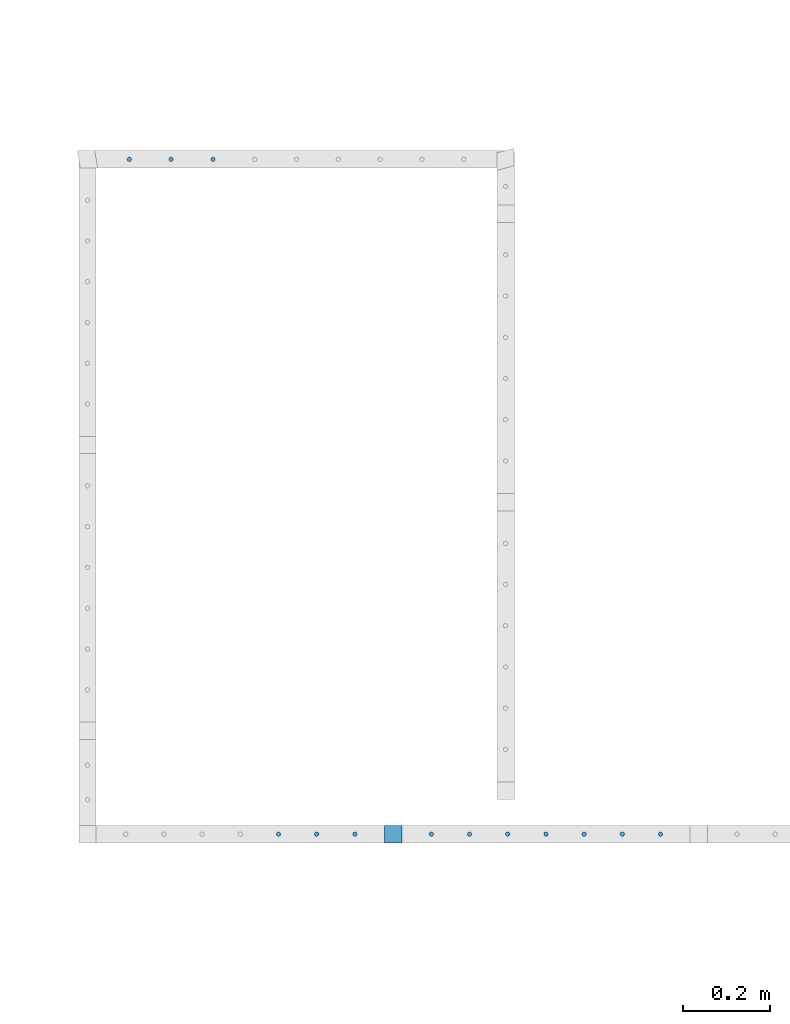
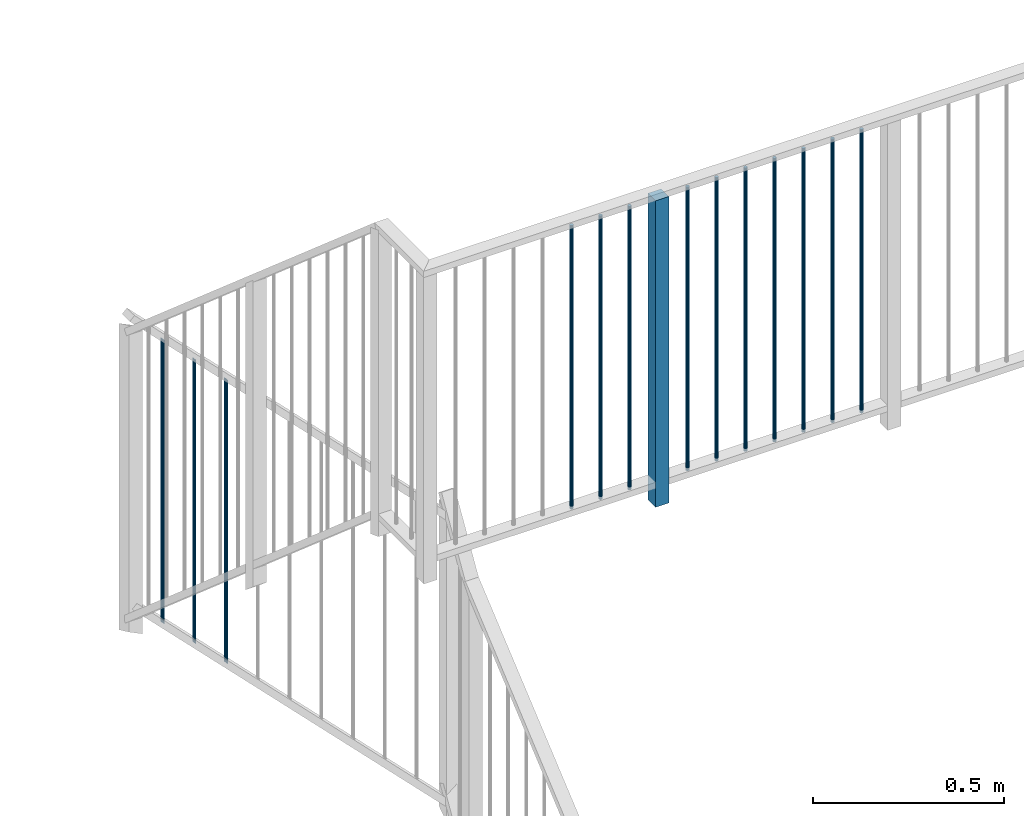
# One storey, part 8 of 135: 14 members, 1 element without a shape of its own.
"""IFC2X3 building model written with IfcOpenShell, lengths in millimetres."""

from ifc_helpers import new_model, entity, si_unit, converted_unit, derived_unit, money_unit, direction, frame, origin_with_axes, place, context, subcontext, project, spatial, faceted_brep, source, transform, mapped, material, type_object, type_shapes, element, aggregate, save


model = new_model("IFC2X3")

# Units and contexts
model_context = context("Model", 3, precision=0.01, world=origin_with_axes(), true_north=direction((0.0, 1.0)))
body_context = subcontext(model_context, "Body", "Model", "MODEL_VIEW")
ifc_project = project(units=[si_unit("LENGTHUNIT", "METRE", prefix="MILLI"), si_unit("AREAUNIT", "SQUARE_METRE"), si_unit("VOLUMEUNIT", "CUBIC_METRE"), converted_unit("PLANEANGLEUNIT", "DEGREE", entity("IfcPlaneAngleMeasure", 0.0174532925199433), si_unit("PLANEANGLEUNIT", "RADIAN"), dimensions=[0, 0, 0, 0, 0, 0, 0]), money_unit("EUR"), converted_unit("TIMEUNIT", "Year", entity("IfcTimeMeasure", 31557600.0), si_unit("TIMEUNIT", "SECOND"), dimensions=[0, 0, 1, 0, 0, 0, 0]), si_unit("MASSUNIT", "GRAM", prefix="KILO"), si_unit("THERMODYNAMICTEMPERATUREUNIT", "DEGREE_CELSIUS"), si_unit("LUMINOUSINTENSITYUNIT", "LUMEN"), si_unit("ENERGYUNIT", "JOULE", prefix="MEGA"), derived_unit("THERMALCONDUCTANCEUNIT", [(si_unit("POWERUNIT", "WATT"), 1), (si_unit("LENGTHUNIT", "METRE"), -1), (si_unit("THERMODYNAMICTEMPERATUREUNIT", "KELVIN"), -1)]), derived_unit("SPECIFICHEATCAPACITYUNIT", [(si_unit("ENERGYUNIT", "JOULE"), 1), (si_unit("MASSUNIT", "GRAM", prefix="KILO"), -1), (si_unit("THERMODYNAMICTEMPERATUREUNIT", "KELVIN"), -1)]), derived_unit("MASSDENSITYUNIT", [(si_unit("MASSUNIT", "GRAM", prefix="KILO"), 1), (si_unit("VOLUMEUNIT", "CUBIC_METRE"), -1)])], contexts=[model_context])

# Site, building, storey
site_placement = place(None, origin_with_axes())
site = spatial("IfcSite", under=ifc_project, at=site_placement, Name="Site", CompositionType="ELEMENT")
building_placement = place(site_placement, origin_with_axes())
building = spatial("IfcBuilding", under=site, at=building_placement, Name="Naam gebouw", CompositionType="ELEMENT")
storey_placement = place(building_placement, origin_with_axes())
storey = spatial("IfcBuildingStorey", under=building, at=storey_placement, Name="Begane grond N", CompositionType="ELEMENT", Elevation=0.0)

# Railing, members
railing_type = type_object("IfcRailingType", Name="Railing Type", PredefinedType="NOTDEFINED")
railing_placement = place(storey_placement, frame((799.9999999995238, 21575.82979156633, 4340.731848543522), z_axis=(0.0, 0.0, 1.0), x_axis=(1.0, 0.0, 0.0)))
railing = element("IfcRailing", 1, at=railing_placement, inside=storey, type_object=railing_type, Name="_Reling-x", PredefinedType="NOTDEFINED")
ifc_material = material(Name="Metaal - Staal C")
member_type_1 = type_object("IfcMemberType", Name="IfcMember", PredefinedType="MEMBER")
shared_shape_1 = source(origin_with_axes(), body_context, "Body", "Brep", [
    faceted_brep([(0.0, -5.0, 0.0), (0.8682408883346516, -4.92403876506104, 0.0), (0.868240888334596, -4.92403876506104, 907.5000000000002), (0.0, -5.0, 907.5000000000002), (-0.868240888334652, -4.92403876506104, 0.0), (-1.710100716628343, -4.698463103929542, 0.0), (-2.500000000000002, -4.330127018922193, 0.0), (-3.213938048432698, -3.830222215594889, 0.0), (-3.830222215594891, -3.213938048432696, 0.0), (-4.330127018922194, -2.5, 0.0), (-4.698463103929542, -1.710100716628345, 0.0), (-4.924038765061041, -0.86824088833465, 0.0), (-5.0, 0.0, 0.0), (-4.92403876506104, 0.8682408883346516, 0.0), (-4.698463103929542, 1.710100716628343, 0.0), (-4.330127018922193, 2.500000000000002, 0.0), (-3.83022221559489, 3.213938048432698, 0.0), (-3.213938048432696, 3.83022221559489, 0.0), (-2.5, 4.330127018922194, 0.0), (-1.710100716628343, 4.698463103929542, 0.0), (-0.8682408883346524, 4.92403876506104, 0.0), (0.0, 5.0, 0.0), (0.8682408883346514, 4.92403876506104, 0.0), (1.710100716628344, 4.698463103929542, 0.0), (2.5, 4.330127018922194, 0.0), (3.213938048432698, 3.83022221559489, 0.0), (3.83022221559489, 3.213938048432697, 0.0), (4.330127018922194, 2.499999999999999, 0.0), (4.698463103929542, 1.710100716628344, 0.0), (4.92403876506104, 0.8682408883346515, 0.0), (5.0, 0.0, 0.0), (4.92403876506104, -0.8682408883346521, 0.0), (4.698463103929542, -1.710100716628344, 0.0), (4.330127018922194, -2.5, 0.0), (3.83022221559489, -3.213938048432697, 0.0), (3.213938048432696, -3.83022221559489, 0.0), (2.5, -4.330127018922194, 0.0), (1.710100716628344, -4.698463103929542, 0.0), (1.710100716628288, -4.698463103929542, 907.5000000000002), (2.499999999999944, -4.330127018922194, 907.5000000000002), (3.213938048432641, -3.83022221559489, 907.5000000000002), (3.830222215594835, -3.213938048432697, 907.5000000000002), (4.330127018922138, -2.5, 907.5000000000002), (4.698463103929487, -1.710100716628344, 907.5000000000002), (4.924038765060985, -0.8682408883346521, 907.5000000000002), (4.999999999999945, 0.0, 907.5000000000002), (4.924038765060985, 0.8682408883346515, 907.5000000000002), (4.698463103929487, 1.710100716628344, 907.5000000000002), (4.330127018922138, 2.499999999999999, 907.5000000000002), (3.830222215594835, 3.213938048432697, 907.5000000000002), (3.213938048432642, 3.83022221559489, 907.5000000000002), (2.499999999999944, 4.330127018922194, 907.5000000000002), (1.710100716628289, 4.698463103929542, 907.5000000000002), (0.8682408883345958, 4.92403876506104, 907.5000000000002), (0.0, 5.0, 907.5000000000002), (-0.868240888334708, 4.92403876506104, 907.5000000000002), (-1.710100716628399, 4.698463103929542, 907.5000000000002), (-2.500000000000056, 4.330127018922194, 907.5000000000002), (-3.213938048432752, 3.83022221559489, 907.5000000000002), (-3.830222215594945, 3.213938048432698, 907.5000000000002), (-4.330127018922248, 2.500000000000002, 907.5000000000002), (-4.698463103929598, 1.710100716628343, 907.5000000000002), (-4.924038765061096, 0.8682408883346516, 907.5000000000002), (-5.000000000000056, 0.0, 907.5000000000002), (-4.924038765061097, -0.86824088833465, 907.5000000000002), (-4.698463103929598, -1.710100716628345, 907.5000000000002), (-4.330127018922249, -2.5, 907.5000000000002), (-3.830222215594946, -3.213938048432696, 907.5000000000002), (-3.213938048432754, -3.830222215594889, 907.5000000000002), (-2.500000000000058, -4.330127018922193, 907.5000000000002), (-1.710100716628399, -4.698463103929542, 907.5000000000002), (-0.8682408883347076, -4.92403876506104, 907.5000000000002)], [[[0, 1, 2, 3]], [[0, 4, 5, 6, 7, 8, 9, 10, 11, 12, 13, 14, 15, 16, 17, 18, 19, 20, 21, 22, 23, 24, 25, 26, 27, 28, 29, 30, 31, 32, 33, 34, 35, 36, 37, 1]], [[1, 37, 38, 2]], [[3, 2, 38, 39, 40, 41, 42, 43, 44, 45, 46, 47, 48, 49, 50, 51, 52, 53, 54, 55, 56, 57, 58, 59, 60, 61, 62, 63, 64, 65, 66, 67, 68, 69, 70, 71]], [[4, 0, 3, 71]], [[5, 4, 71, 70]], [[6, 5, 70, 69]], [[7, 6, 69, 68]], [[8, 7, 68, 67]], [[9, 8, 67, 66]], [[10, 9, 66, 65]], [[11, 10, 65, 64]], [[12, 11, 64, 63]], [[13, 12, 63, 62]], [[14, 13, 62, 61]], [[15, 14, 61, 60]], [[16, 15, 60, 59]], [[17, 16, 59, 58]], [[18, 17, 58, 57]], [[19, 18, 57, 56]], [[20, 19, 56, 55]], [[21, 20, 55, 54]], [[22, 21, 54, 53]], [[23, 22, 53, 52]], [[24, 23, 52, 51]], [[25, 24, 51, 50]], [[26, 25, 50, 49]], [[27, 26, 49, 48]], [[28, 27, 48, 47]], [[29, 28, 47, 46]], [[30, 29, 46, 45]], [[31, 30, 45, 44]], [[32, 31, 44, 43]], [[33, 32, 43, 42]], [[34, 33, 42, 41]], [[35, 34, 41, 40]], [[36, 35, 40, 39]], [[37, 36, 39, 38]]]),
])
member_1_placement = place(railing_placement, frame((-646.4583333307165, -99.99999999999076, 3391.96815145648), z_axis=(0.0, 0.0, 1.0), x_axis=(1.0, 0.0, 0.0)))
member_1 = element("IfcMember", 2, at=member_1_placement, type_object=member_type_1, material=ifc_material, Name="_Spijlen-x", ObjectType="MEMBER", context=body_context, shape_type="MappedRepresentation", body=[
    mapped(shared_shape_1, transform((0.0, 0.0, 0.0), x_axis=(0.0, -1.0, 0.0), y_axis=(1.0, 0.0, 0.0), z_axis=(0.0, 0.0, 1.0))),
])
member_2_placement = place(railing_placement, frame((-471.0416666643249, -99.99999999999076, 3391.96815145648), z_axis=(0.0, 0.0, 1.0), x_axis=(1.0, 0.0, 0.0)))
member_2 = element("IfcMember", 3, at=member_2_placement, type_object=member_type_1, material=ifc_material, Name="_Spijlen-x", ObjectType="MEMBER", context=body_context, shape_type="MappedRepresentation", body=[
    mapped(shared_shape_1, transform((0.0, 0.0, 0.0), x_axis=(0.0, -1.0, 0.0), y_axis=(1.0, 0.0, 0.0), z_axis=(0.0, 0.0, 1.0))),
])
member_3_placement = place(railing_placement, frame((-558.7499999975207, -99.99999999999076, 3391.96815145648), z_axis=(0.0, 0.0, 1.0), x_axis=(1.0, 0.0, 0.0)))
member_3 = element("IfcMember", 4, at=member_3_placement, type_object=member_type_1, material=ifc_material, Name="_Spijlen-x", ObjectType="MEMBER", context=body_context, shape_type="MappedRepresentation", body=[
    mapped(shared_shape_1, transform((0.0, 0.0, 0.0), x_axis=(0.0, -1.0, 0.0), y_axis=(1.0, 0.0, 0.0), z_axis=(0.0, 0.0, 1.0))),
])
member_4_placement = place(railing_placement, frame((-295.6249999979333, -99.99999999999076, 3391.96815145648), z_axis=(0.0, 0.0, 1.0), x_axis=(1.0, 0.0, 0.0)))
member_4 = element("IfcMember", 5, at=member_4_placement, type_object=member_type_1, material=ifc_material, Name="_Spijlen-x", ObjectType="MEMBER", context=body_context, shape_type="MappedRepresentation", body=[
    mapped(shared_shape_1, transform((0.0, 0.0, 0.0), x_axis=(0.0, -1.0, 0.0), y_axis=(1.0, 0.0, 0.0), z_axis=(0.0, 0.0, 1.0))),
])
member_5_placement = place(railing_placement, frame((-207.9166666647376, -99.99999999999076, 3391.96815145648), z_axis=(0.0, 0.0, 1.0), x_axis=(1.0, 0.0, 0.0)))
member_5 = element("IfcMember", 6, at=member_5_placement, type_object=member_type_1, material=ifc_material, Name="_Spijlen-x", ObjectType="MEMBER", context=body_context, shape_type="MappedRepresentation", body=[
    mapped(shared_shape_1, transform((0.0, 0.0, 0.0), x_axis=(0.0, -1.0, 0.0), y_axis=(1.0, 0.0, 0.0), z_axis=(0.0, 0.0, 1.0))),
])
member_6_placement = place(railing_placement, frame((-120.2083333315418, -99.99999999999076, 3391.96815145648), z_axis=(0.0, 0.0, 1.0), x_axis=(1.0, 0.0, 0.0)))
member_6 = element("IfcMember", 7, at=member_6_placement, type_object=member_type_1, material=ifc_material, Name="_Spijlen-x", ObjectType="MEMBER", context=body_context, shape_type="MappedRepresentation", body=[
    mapped(shared_shape_1, transform((0.0, 0.0, 0.0), x_axis=(0.0, -1.0, 0.0), y_axis=(1.0, 0.0, 0.0), z_axis=(0.0, 0.0, 1.0))),
])
member_7_placement = place(railing_placement, frame((-32.49999999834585, -99.99999999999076, 3391.96815145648), z_axis=(0.0, 0.0, 1.0), x_axis=(1.0, 0.0, 0.0)))
member_7 = element("IfcMember", 8, at=member_7_placement, type_object=member_type_1, material=ifc_material, Name="_Spijlen-x", ObjectType="MEMBER", context=body_context, shape_type="MappedRepresentation", body=[
    mapped(shared_shape_1, transform((0.0, 0.0, 0.0), x_axis=(0.0, -1.0, 0.0), y_axis=(1.0, 0.0, 0.0), z_axis=(0.0, 0.0, 1.0))),
])
member_8_placement = place(railing_placement, frame((55.20833333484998, -99.99999999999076, 3391.96815145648), z_axis=(0.0, 0.0, 1.0), x_axis=(1.0, 0.0, 0.0)))
member_8 = element("IfcMember", 9, at=member_8_placement, type_object=member_type_1, material=ifc_material, Name="_Spijlen-x", ObjectType="MEMBER", context=body_context, shape_type="MappedRepresentation", body=[
    mapped(shared_shape_1, transform((0.0, 0.0, 0.0), x_axis=(0.0, -1.0, 0.0), y_axis=(1.0, 0.0, 0.0), z_axis=(0.0, 0.0, 1.0))),
])
member_9_placement = place(railing_placement, frame((230.6250000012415, -99.99999999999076, 3391.96815145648), z_axis=(0.0, 0.0, 1.0), x_axis=(1.0, 0.0, 0.0)))
member_9 = element("IfcMember", 10, at=member_9_placement, type_object=member_type_1, material=ifc_material, Name="_Spijlen-x", ObjectType="MEMBER", context=body_context, shape_type="MappedRepresentation", body=[
    mapped(shared_shape_1, transform((0.0, 0.0, 0.0), x_axis=(0.0, -1.0, 0.0), y_axis=(1.0, 0.0, 0.0), z_axis=(0.0, 0.0, 1.0))),
])
member_10_placement = place(railing_placement, frame((142.9166666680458, -99.99999999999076, 3391.96815145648), z_axis=(0.0, 0.0, 1.0), x_axis=(1.0, 0.0, 0.0)))
member_10 = element("IfcMember", 11, at=member_10_placement, type_object=member_type_1, material=ifc_material, Name="_Spijlen-x", ObjectType="MEMBER", context=body_context, shape_type="MappedRepresentation", body=[
    mapped(shared_shape_1, transform((0.0, 0.0, 0.0), x_axis=(0.0, -1.0, 0.0), y_axis=(1.0, 0.0, 0.0), z_axis=(0.0, 0.0, 1.0))),
])
member_type_2 = type_object("IfcMemberType", Name="IfcMember", PredefinedType="POST")
shared_shape_2 = source(origin_with_axes(), body_context, "Body", "Brep", [
    faceted_brep([(20.0, 20.0, 0.0), (-20.0, 20.0, 0.0), (-20.00000000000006, 20.0, 980.0000000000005), (19.99999999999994, 20.0, 980.0000000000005), (20.0, -20.0, 0.0), (-20.0, -20.0, 0.0), (-20.00000000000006, -20.0, 980.0000000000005), (19.99999999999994, -20.0, 980.0000000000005)], [[[0, 1, 2, 3]], [[0, 4, 5, 1]], [[1, 5, 6, 2]], [[3, 2, 6, 7]], [[4, 0, 3, 7]], [[5, 4, 7, 6]]]),
])
type_shapes(member_type_2, [shared_shape_2])
member_11_placement = place(railing_placement, frame((-383.3333333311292, -99.99999999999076, 3321.96815145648), z_axis=(0.0, 0.0, 1.0), x_axis=(1.0, 0.0, 0.0)))
member_11 = element("IfcMember", 12, at=member_11_placement, type_object=member_type_2, material=ifc_material, Name="_Baluster-x", ObjectType="POST", context=body_context, shape_type="MappedRepresentation", body=[
    mapped(shared_shape_2, transform((0.0, 0.0, 0.0), x_axis=(0.0, -1.0, 0.0), y_axis=(1.0, 0.0, 0.0), z_axis=(0.0, 0.0, 1.0))),
])
shared_shape_3 = source(origin_with_axes(), body_context, "Body", "Brep", [
    faceted_brep([(0.0, -5.0, -5.073349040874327), (0.868240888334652, -4.92403876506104, -4.996273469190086), (0.8682408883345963, -4.924038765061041, 902.5037265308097), (0.0, -5.000000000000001, 902.4266509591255), (-0.8682408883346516, -4.92403876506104, -4.996273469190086), (-1.710100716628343, -4.698463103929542, -4.767388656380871), (-2.500000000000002, -4.330127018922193, -4.393649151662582), (-3.213938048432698, -3.830222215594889, -3.886410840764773), (-3.830222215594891, -3.213938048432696, -3.261085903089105), (-4.330127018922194, -2.5, -2.536674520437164), (-4.698463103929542, -1.710100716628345, -1.735187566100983), (-4.924038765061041, -0.86824088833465, -0.8809778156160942), (-5.0, 0.0, 0.0), (-4.92403876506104, 0.8682408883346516, 0.8809778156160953), (-4.698463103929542, 1.710100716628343, 1.73518756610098), (-4.330127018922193, 2.500000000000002, 2.536674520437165), (-3.83022221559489, 3.213938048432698, 3.261085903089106), (-3.213938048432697, 3.83022221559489, 3.886410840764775), (-2.500000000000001, 4.330127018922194, 4.393649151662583), (-1.710100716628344, 4.698463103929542, 4.767388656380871), (-0.8682408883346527, 4.92403876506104, 4.996273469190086), (0.0, 5.0, 5.073349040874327), (0.8682408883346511, 4.92403876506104, 4.996273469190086), (1.710100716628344, 4.698463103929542, 4.767388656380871), (2.499999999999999, 4.330127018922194, 4.393649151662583), (3.213938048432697, 3.83022221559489, 3.886410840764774), (3.83022221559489, 3.213938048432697, 3.261085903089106), (4.330127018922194, 2.499999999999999, 2.536674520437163), (4.698463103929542, 1.710100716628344, 1.735187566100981), (4.92403876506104, 0.8682408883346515, 0.8809778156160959), (5.0, 0.0, 0.0), (4.92403876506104, -0.8682408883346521, -0.8809778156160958), (4.698463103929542, -1.710100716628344, -1.735187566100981), (4.330127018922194, -2.5, -2.536674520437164), (3.83022221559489, -3.213938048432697, -3.261085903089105), (3.213938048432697, -3.83022221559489, -3.886410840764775), (2.5, -4.330127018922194, -4.393649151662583), (1.710100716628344, -4.698463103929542, -4.767388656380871), (1.710100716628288, -4.698463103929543, 902.7326113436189), (2.499999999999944, -4.330127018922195, 903.1063508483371), (3.213938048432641, -3.830222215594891, 903.613589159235), (3.830222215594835, -3.213938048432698, 904.2389140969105), (4.330127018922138, -2.500000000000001, 904.9633254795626), (4.698463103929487, -1.710100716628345, 905.7648124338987), (4.924038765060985, -0.8682408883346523, 906.6190221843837), (4.999999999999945, 0.0, 907.4999999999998), (4.924038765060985, 0.8682408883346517, 908.3809778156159), (4.698463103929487, 1.710100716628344, 909.2351875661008), (4.330127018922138, 2.499999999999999, 910.0366745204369), (3.830222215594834, 3.213938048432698, 910.7610859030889), (3.213938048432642, 3.83022221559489, 911.3864108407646), (2.499999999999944, 4.330127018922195, 911.8936491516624), (1.710100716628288, 4.698463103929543, 912.2673886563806), (0.8682408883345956, 4.924038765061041, 912.4962734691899), (0.0, 5.000000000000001, 912.5733490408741), (-0.8682408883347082, 4.924038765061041, 912.4962734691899), (-1.710100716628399, 4.698463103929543, 912.2673886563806), (-2.500000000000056, 4.330127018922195, 911.8936491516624), (-3.213938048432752, 3.830222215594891, 911.3864108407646), (-3.830222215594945, 3.213938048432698, 910.7610859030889), (-4.330127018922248, 2.500000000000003, 910.0366745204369), (-4.698463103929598, 1.710100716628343, 909.2351875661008), (-4.924038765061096, 0.8682408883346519, 908.3809778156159), (-5.000000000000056, 0.0, 907.4999999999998), (-4.924038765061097, -0.8682408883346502, 906.6190221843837), (-4.698463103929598, -1.710100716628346, 905.7648124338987), (-4.330127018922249, -2.500000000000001, 904.9633254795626), (-3.830222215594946, -3.213938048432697, 904.2389140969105), (-3.213938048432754, -3.83022221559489, 903.613589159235), (-2.500000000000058, -4.330127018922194, 903.1063508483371), (-1.710100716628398, -4.698463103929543, 902.7326113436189), (-0.8682408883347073, -4.924038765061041, 902.5037265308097)], [[[0, 1, 2, 3]], [[0, 4, 5, 6, 7, 8, 9, 10, 11, 12, 13, 14, 15, 16, 17, 18, 19, 20, 21, 22, 23, 24, 25, 26, 27, 28, 29, 30, 31, 32, 33, 34, 35, 36, 37, 1]], [[1, 37, 38, 2]], [[3, 2, 38, 39, 40, 41, 42, 43, 44, 45, 46, 47, 48, 49, 50, 51, 52, 53, 54, 55, 56, 57, 58, 59, 60, 61, 62, 63, 64, 65, 66, 67, 68, 69, 70, 71]], [[4, 0, 3, 71]], [[5, 4, 71, 70]], [[6, 5, 70, 69]], [[7, 6, 69, 68]], [[8, 7, 68, 67]], [[9, 8, 67, 66]], [[10, 9, 66, 65]], [[11, 10, 65, 64]], [[12, 11, 64, 63]], [[13, 12, 63, 62]], [[14, 13, 62, 61]], [[15, 14, 61, 60]], [[16, 15, 60, 59]], [[17, 16, 59, 58]], [[18, 17, 58, 57]], [[19, 18, 57, 56]], [[20, 19, 56, 55]], [[21, 20, 55, 54]], [[22, 21, 54, 53]], [[23, 22, 53, 52]], [[24, 23, 52, 51]], [[25, 24, 51, 50]], [[26, 25, 50, 49]], [[27, 26, 49, 48]], [[28, 27, 48, 47]], [[29, 28, 47, 46]], [[30, 29, 46, 45]], [[31, 30, 45, 44]], [[32, 31, 44, 43]], [[33, 32, 43, 42]], [[34, 33, 42, 41]], [[35, 34, 41, 40]], [[36, 35, 40, 39]], [[37, 36, 39, 38]]]),
])
type_shapes(member_type_1, [shared_shape_1, shared_shape_3])
member_12_placement = place(railing_placement, frame((-893.0008788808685, 1449.287334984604, 2109.556027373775), z_axis=(0.0, 0.0, 1.0), x_axis=(1.0, 0.0, 0.0)))
member_12 = element("IfcMember", 13, at=member_12_placement, type_object=member_type_1, material=ifc_material, Name="_Spijlen-x", ObjectType="MEMBER", context=body_context, shape_type="MappedRepresentation", body=[
    mapped(shared_shape_3, transform((0.0, 0.0, 0.0), x_axis=(0.0, 1.0, 0.0), y_axis=(-1.0, 0.0, 0.0), z_axis=(0.0, 0.0, 1.0))),
])
member_13_placement = place(railing_placement, frame((-989.0004394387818, 1449.287334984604, 2206.963883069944), z_axis=(0.0, 0.0, 1.0), x_axis=(1.0, 0.0, 0.0)))
member_13 = element("IfcMember", 14, at=member_13_placement, type_object=member_type_1, material=ifc_material, Name="_Spijlen-x", ObjectType="MEMBER", context=body_context, shape_type="MappedRepresentation", body=[
    mapped(shared_shape_3, transform((0.0, 0.0, 0.0), x_axis=(0.0, 1.0, 0.0), y_axis=(-1.0, 0.0, 0.0), z_axis=(0.0, 0.0, 1.0))),
])
member_14_placement = place(railing_placement, frame((-797.0013183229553, 1449.287334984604, 2012.148171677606), z_axis=(0.0, 0.0, 1.0), x_axis=(1.0, 0.0, 0.0)))
member_14 = element("IfcMember", 15, at=member_14_placement, type_object=member_type_1, material=ifc_material, Name="_Spijlen-x", ObjectType="MEMBER", context=body_context, shape_type="MappedRepresentation", body=[
    mapped(shared_shape_3, transform((0.0, 0.0, 0.0), x_axis=(0.0, 1.0, 0.0), y_axis=(-1.0, 0.0, 0.0), z_axis=(0.0, 0.0, 1.0))),
])
aggregate(railing, [member_12, member_13, member_14, member_1, member_2, member_3, member_11, member_4, member_5, member_6, member_7, member_8, member_9, member_10])

save(model, "model.ifc")
